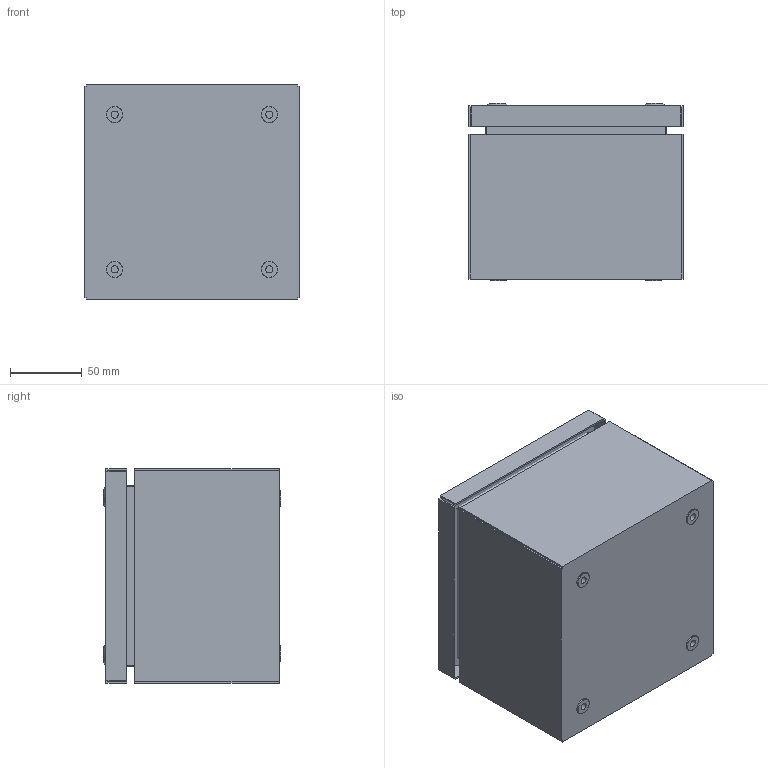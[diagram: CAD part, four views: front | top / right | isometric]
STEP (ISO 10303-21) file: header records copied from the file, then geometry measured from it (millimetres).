
FILE_DESCRIPTION(('Open CASCADE Model'),'2;1');
FILE_NAME('Open CASCADE Shape Model','2025-11-12T17:51:50',('Author'),( 'Open CASCADE'),'Open CASCADE STEP processor 7.8','Open CASCADE 7.8' ,'Unknown');
FILE_SCHEMA(('AUTOMOTIVE_DESIGN { 1 0 10303 214 1 1 1 1 }'));
Length unit declared in the file: millimetre
Products named in the file (16): Compound1; Compound2; Compound3; Solid1; Solid2; Solid3; Solid4; Solid5; Compound4; Compound5; Solid6; Solid7; Solid8; Solid9; Solid10; Solid11
Assembly tree (31 placements, depth 5):
  Compound1
    Compound2
      Compound3
        Solid1
        Solid2  x2
        Solid3  x2
        Solid4  x2
        Solid5
      Compound4
        Compound5
          Solid6
          Solid5
        Solid7
      Solid8  x4
      Solid9  x4
      Solid10  x4
    Solid11  x4
Bounding box: 150 x 123.79 x 150 mm (x, y, z)
Volume: 231430.1 mm3; surface area: 328821.1 mm2
Topology: 27 solids, 27 shells, 908 faces, 2444 edges, 1616 vertices
Faces by surface type: plane 668, cylinder 126, cone 46, bspline 32, torus 28, sphere 8
Full cylindrical faces by diameter (mm): 4 x10, 4.134 x4, 5 x8, 5.2 x4, 5.3 x4, 5.5 x4, 6 x2, 6.5 x4, 7.5 x6, 8 x8, 8.5 x4, 11.5 x4, 13.5 x4, 15.791 x4
Entity records: 14803 total; most frequent: CARTESIAN_POINT 4225, ORIENTED_EDGE 2214, DIRECTION 2004, EDGE_CURVE 1107, LINE 766, VECTOR 766, VERTEX_POINT 732, AXIS2_PLACEMENT_3D 619
